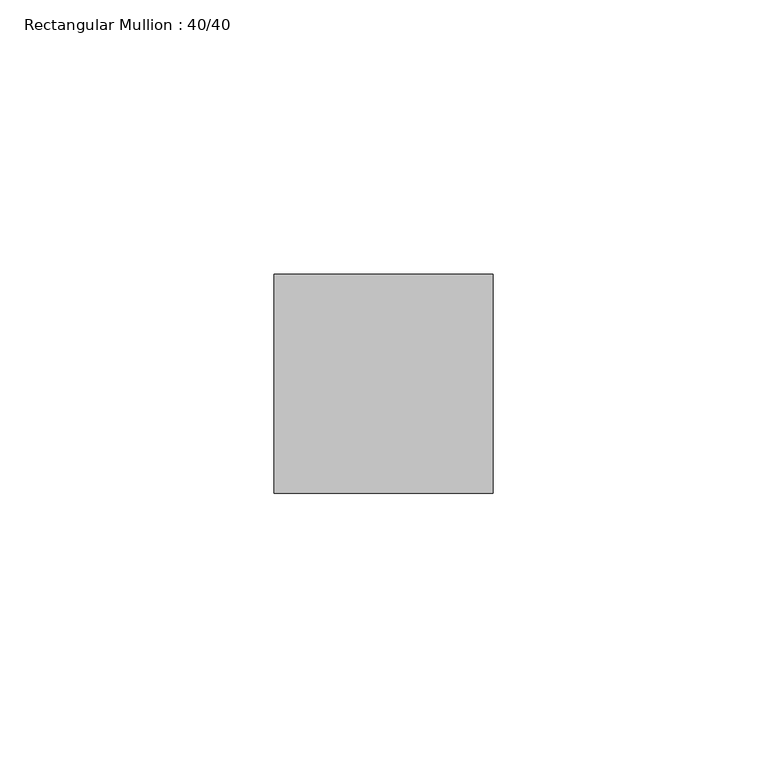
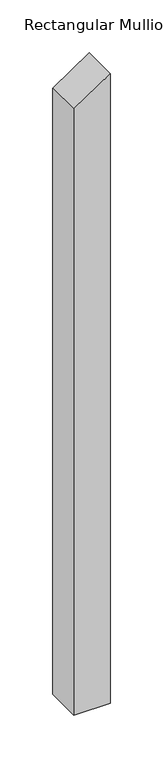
"""IFC4 building model written with IfcOpenShell, lengths in millimetres: member geometry, Rectangular Mullion : 40/40."""

from ifc_helpers import new_model, si_unit, frame, origin, place, context, project, spatial, polyline, outline, extrude, source, transform, mapped, element, save


def rectangular_mullion_40_40_458ec4b7(model_context):
    return source(origin(), model_context, "Body", "SweptSolid", [
        extrude(outline(polyline([(0.0, 0.0), (-27.0109548, -40.0), (-730.0, -40.0), (-730.0, 0.0), (0.0, 0.0)])), frame((0.0, -20.0, 0.0), z_axis=(0.0, 1.0, 0.0), x_axis=(0.0, 0.0, 1.0)), (0.0, 0.0, 1.0), 40.0),
    ])


if __name__ == "__main__":
    model = new_model("IFC4")
    model_context = context("Model", 3, world=origin())
    ifc_project = project(units=[si_unit("LENGTHUNIT", "METRE", prefix="MILLI")], contexts=[model_context])
    site = spatial("IfcSite", under=ifc_project)
    building = spatial("IfcBuilding", under=site)
    placement = place(None, origin())
    rectangular_mullion_40_40_shape = rectangular_mullion_40_40_458ec4b7(model_context)
    element("IfcMember", 1, ObjectType="Rectangular Mullion : 40/40", at=placement, inside=building, context=model_context, shape_type="MappedRepresentation", body=[
        mapped(rectangular_mullion_40_40_shape, transform((0.0, 0.0, 0.0), x_axis=(1.0, 0.0, 0.0), y_axis=(0.0, 1.0, 0.0), z_axis=(0.0, 0.0, 1.0))),
    ])
    save(model, "model.ifc")
